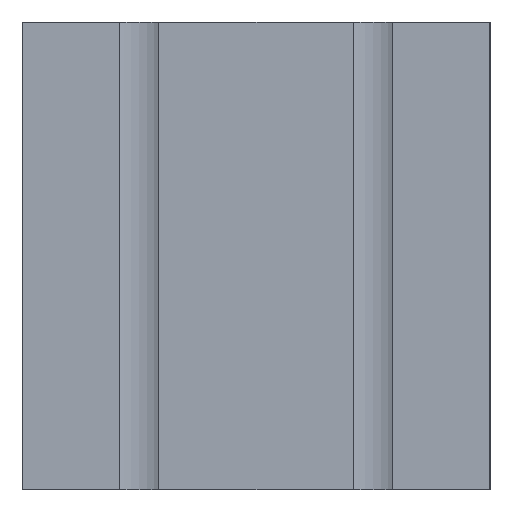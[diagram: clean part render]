
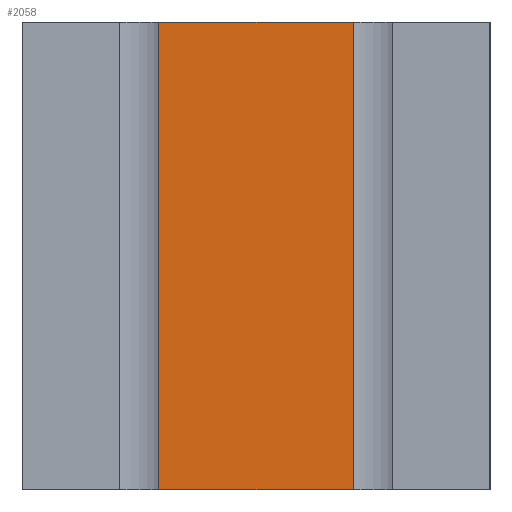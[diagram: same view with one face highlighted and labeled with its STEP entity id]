
A CAD part, front view. The second image highlights one B-rep face of the part: STEP entity #2058.
In plain terms, the highlighted planar face has unit normal (0, -1, 0).
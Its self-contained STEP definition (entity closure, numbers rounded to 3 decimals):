
#488=ORIENTED_EDGE('',*,*,#932,.F.);
#489=ORIENTED_EDGE('',*,*,#933,.F.);
#490=ORIENTED_EDGE('',*,*,#934,.T.);
#491=ORIENTED_EDGE('',*,*,#783,.F.);
#783=EDGE_CURVE('',#1074,#1075,#1248,.T.);
#932=EDGE_CURVE('',#1157,#1074,#1371,.T.);
#933=EDGE_CURVE('',#1158,#1157,#1372,.T.);
#934=EDGE_CURVE('',#1158,#1075,#1373,.T.);
#1074=VERTEX_POINT('',#3001);
#1075=VERTEX_POINT('',#3003);
#1157=VERTEX_POINT('',#3307);
#1158=VERTEX_POINT('',#3311);
#1248=LINE('',#3002,#1484);
#1371=LINE('',#3308,#1607);
#1372=LINE('',#3310,#1608);
#1373=LINE('',#3312,#1609);
#1484=VECTOR('',#2383,1000.);
#1607=VECTOR('',#2706,1000.);
#1608=VECTOR('',#2709,1000.);
#1609=VECTOR('',#2710,1000.);
#1745=EDGE_LOOP('',(#488,#489,#490,#491));
#1873=FACE_BOUND('',#1745,.T.);
#1959=PLANE('',#2226);
#2058=ADVANCED_FACE('',(#1873),#1959,.T.);
#2226=AXIS2_PLACEMENT_3D('',#3309,#2707,#2708);
#2383=DIRECTION('',(-1.,0.,0.));
#2706=DIRECTION('',(0.,0.,-1.));
#2707=DIRECTION('',(0.,-1.,0.));
#2708=DIRECTION('',(1.,0.,0.));
#2709=DIRECTION('',(1.,0.,0.));
#2710=DIRECTION('',(0.,0.,-1.));
#3001=CARTESIAN_POINT('',(20.8,-50.,-50.));
#3002=CARTESIAN_POINT('',(20.55,-50.,-50.));
#3003=CARTESIAN_POINT('',(-20.8,-50.,-50.));
#3307=CARTESIAN_POINT('',(20.8,-50.,50.));
#3308=CARTESIAN_POINT('',(20.8,-50.,0.));
#3309=CARTESIAN_POINT('',(-20.55,-50.,0.));
#3310=CARTESIAN_POINT('',(20.55,-50.,50.));
#3311=CARTESIAN_POINT('',(-20.8,-50.,50.));
#3312=CARTESIAN_POINT('',(-20.8,-50.,0.));
